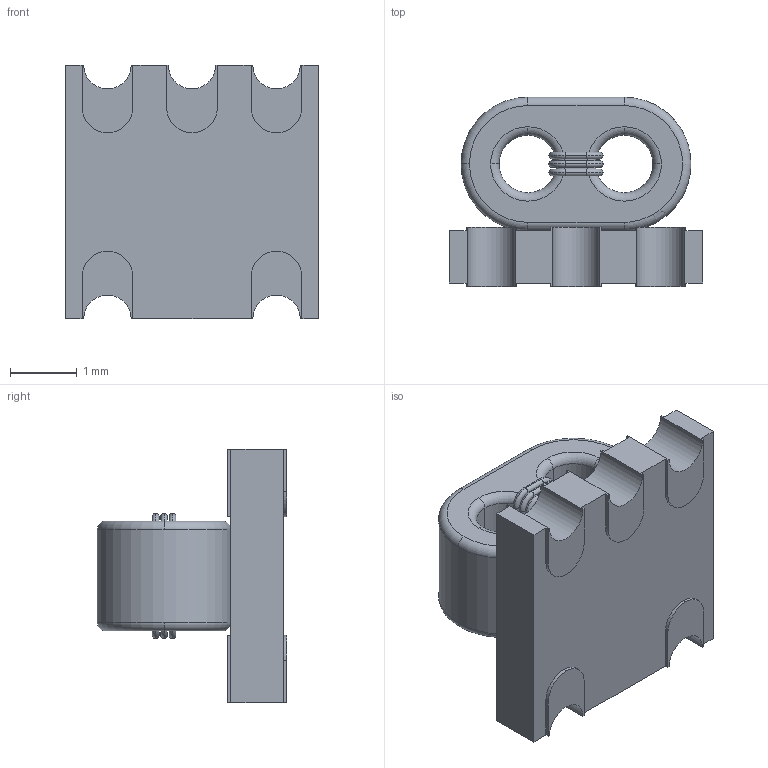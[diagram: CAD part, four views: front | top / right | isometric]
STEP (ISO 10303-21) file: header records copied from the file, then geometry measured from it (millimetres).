
FILE_DESCRIPTION (( 'STEP AP214' ), '1' );
FILE_NAME ('CX2041NL_3D.STEP', '2018-06-21T02:48:02', ( '' ), ( '' ), 'SwSTEP 2.0', 'SolidWorks 2015', '' );
FILE_SCHEMA (( 'AUTOMOTIVE_DESIGN' ));
Length unit declared in the file: inch
Products named in the file (1): CX2041NL_3D
Bounding box: 3.81 x 2.84 x 3.81 mm (x, y, z)
Volume: 19 mm3; surface area: 79.4 mm2
Topology: 5 solids, 5 shells, 145 faces, 360 edges, 219 vertices
Faces by surface type: cylinder 54, plane 50, torus 41
Entity records: 6361 total; most frequent: DIRECTION 816, CARTESIAN_POINT 805, ORIENTED_EDGE 720, EDGE_CURVE 360, AXIS2_PLACEMENT_3D 312, VERTEX_POINT 219, VECTOR 192, LINE 192
